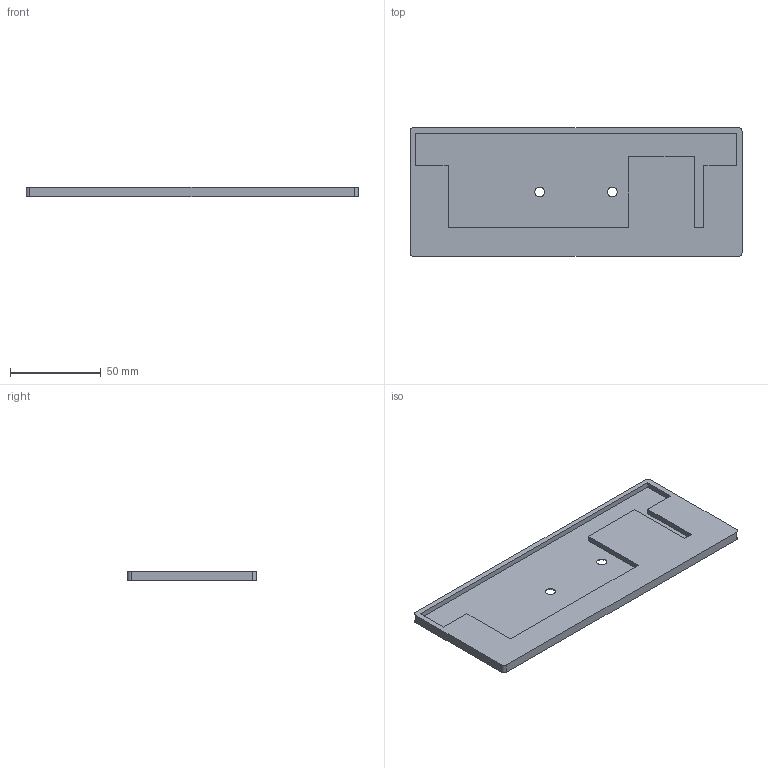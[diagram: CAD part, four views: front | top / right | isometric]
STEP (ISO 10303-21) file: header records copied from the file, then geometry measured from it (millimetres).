
FILE_DESCRIPTION (( 'STEP AP214' ), '1' );
FILE_NAME ('z1.STEP', '2026-01-21T22:11:10', ( '' ), ( '' ), 'SwSTEP 2.0', 'SolidWorks 2024', '' );
FILE_SCHEMA (( 'AUTOMOTIVE_DESIGN' ));
Length unit declared in the file: millimetre
Products named in the file (1): z1
Bounding box: 183 x 71 x 5 mm (x, y, z)
Volume: 45085.7 mm3; surface area: 30056.9 mm2
Topology: 1 solids, 1 shells, 27 faces, 72 edges, 48 vertices
Faces by surface type: plane 19, cone 4, cylinder 4
Entity records: 873 total; most frequent: CARTESIAN_POINT 148, ORIENTED_EDGE 144, DIRECTION 144, EDGE_CURVE 72, LINE 56, VECTOR 56, VERTEX_POINT 48, AXIS2_PLACEMENT_3D 44
